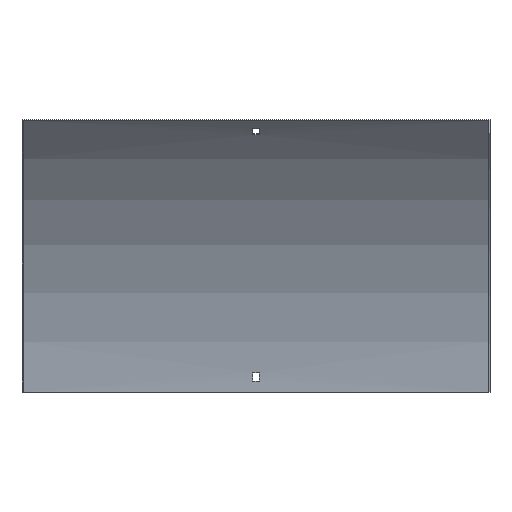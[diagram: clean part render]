
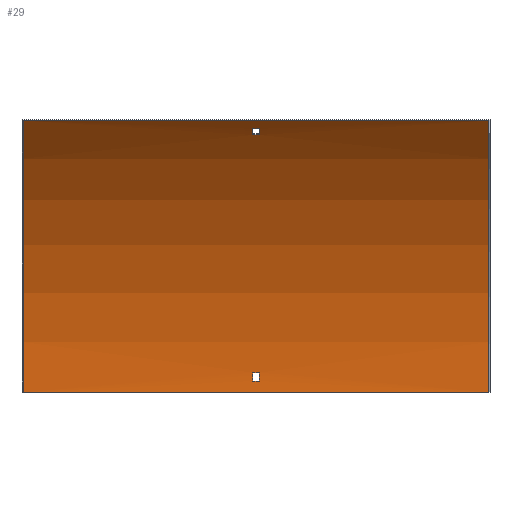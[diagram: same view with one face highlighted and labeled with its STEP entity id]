
A CAD part, front view. The second image highlights one B-rep face of the part: STEP entity #29.
In plain terms, the highlighted cylindrical face has radius 412.5 mm (diameter 825 mm), a partial arc.
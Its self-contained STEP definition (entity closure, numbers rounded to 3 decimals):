
#2 = EDGE_CURVE ( 'NONE', #605, #139, #540, .T. ) ;
#17 = AXIS2_PLACEMENT_3D ( 'NONE', #588, #550, #121 ) ;
#21 = ORIENTED_EDGE ( 'NONE', *, *, #517, .F. ) ;
#25 = ORIENTED_EDGE ( 'NONE', *, *, #397, .T. ) ;
#29 = ADVANCED_FACE ( 'NONE', ( #120, #464, #274 ), #419, .F. ) ;
#35 = CIRCLE ( 'NONE', #51, 412.5 ) ;
#38 = LINE ( 'NONE', #510, #302 ) ;
#46 = EDGE_CURVE ( 'NONE', #256, #534, #188, .T. ) ;
#51 = AXIS2_PLACEMENT_3D ( 'NONE', #288, #350, #483 ) ;
#58 = CARTESIAN_POINT ( 'NONE',  ( 250., -1.5, 0. ) ) ;
#61 = CARTESIAN_POINT ( 'NONE',  ( 3.25, -2.035, 21. ) ) ;
#63 = EDGE_LOOP ( 'NONE', ( #542, #260, #21, #101 ) ) ;
#64 = CARTESIAN_POINT ( 'NONE',  ( -3.25, -414., 0. ) ) ;
#67 = CARTESIAN_POINT ( 'NONE',  ( -3.25, -1.675, 12. ) ) ;
#79 = EDGE_CURVE ( 'NONE', #312, #339, #224, .T. ) ;
#81 = CARTESIAN_POINT ( 'NONE',  ( -250., -122.318, 291.682 ) ) ;
#83 = VECTOR ( 'NONE', #575, 1000. ) ;
#89 = CARTESIAN_POINT ( 'NONE',  ( 3.25, -1.675, 12. ) ) ;
#90 = CARTESIAN_POINT ( 'NONE',  ( -3.25, -113.957, 283.073 ) ) ;
#91 = ORIENTED_EDGE ( 'NONE', *, *, #531, .T. ) ;
#94 = ORIENTED_EDGE ( 'NONE', *, *, #46, .F. ) ;
#101 = ORIENTED_EDGE ( 'NONE', *, *, #377, .F. ) ;
#118 = ORIENTED_EDGE ( 'NONE', *, *, #270, .F. ) ;
#120 = FACE_BOUND ( 'NONE', #63, .T. ) ;
#121 = DIRECTION ( 'NONE',  ( 0., 0., -1. ) ) ;
#123 = CARTESIAN_POINT ( 'NONE',  ( 251.5, -2.035, 21. ) ) ;
#128 = CARTESIAN_POINT ( 'NONE',  ( 251.5, -414., 0. ) ) ;
#131 = DIRECTION ( 'NONE',  ( -1., 0., 0. ) ) ;
#138 = CIRCLE ( 'NONE', #504, 412.5 ) ;
#139 = VERTEX_POINT ( 'NONE', #385 ) ;
#151 = LINE ( 'NONE', #168, #190 ) ;
#160 = CARTESIAN_POINT ( 'NONE',  ( -3.25, -2.035, 21. ) ) ;
#163 = DIRECTION ( 'NONE',  ( 0., 0., -1. ) ) ;
#164 = ORIENTED_EDGE ( 'NONE', *, *, #599, .T. ) ;
#168 = CARTESIAN_POINT ( 'NONE',  ( 251.5, -113.957, 283.073 ) ) ;
#183 = DIRECTION ( 'NONE',  ( -1., 0., 0. ) ) ;
#184 = VERTEX_POINT ( 'NONE', #90 ) ;
#185 = VERTEX_POINT ( 'NONE', #518 ) ;
#188 = CIRCLE ( 'NONE', #573, 412.5 ) ;
#190 = VECTOR ( 'NONE', #227, 1000. ) ;
#205 = AXIS2_PLACEMENT_3D ( 'NONE', #64, #492, #163 ) ;
#208 = VERTEX_POINT ( 'NONE', #297 ) ;
#212 = EDGE_LOOP ( 'NONE', ( #94, #118, #164, #368 ) ) ;
#216 = CARTESIAN_POINT ( 'NONE',  ( 251.5, -1.675, 12. ) ) ;
#224 = LINE ( 'NONE', #123, #322 ) ;
#227 = DIRECTION ( 'NONE',  ( 1., 0., 0. ) ) ;
#229 = DIRECTION ( 'NONE',  ( 0., 0., -1. ) ) ;
#248 = DIRECTION ( 'NONE',  ( -1., 0., 0. ) ) ;
#256 = VERTEX_POINT ( 'NONE', #487 ) ;
#260 = ORIENTED_EDGE ( 'NONE', *, *, #79, .F. ) ;
#261 = CARTESIAN_POINT ( 'NONE',  ( 250., -1.5, 0. ) ) ;
#270 = EDGE_CURVE ( 'NONE', #433, #256, #307, .T. ) ;
#274 = FACE_BOUND ( 'NONE', #287, .T. ) ;
#284 = CIRCLE ( 'NONE', #489, 412.5 ) ;
#287 = EDGE_LOOP ( 'NONE', ( #347, #25, #559, #91 ) ) ;
#288 = CARTESIAN_POINT ( 'NONE',  ( 250., -414., 0. ) ) ;
#297 = CARTESIAN_POINT ( 'NONE',  ( 3.25, -113.957, 283.073 ) ) ;
#302 = VECTOR ( 'NONE', #462, 1000. ) ;
#304 = CARTESIAN_POINT ( 'NONE',  ( -3.25, -414., 0. ) ) ;
#307 = LINE ( 'NONE', #58, #83 ) ;
#308 = EDGE_CURVE ( 'NONE', #339, #374, #138, .T. ) ;
#312 = VERTEX_POINT ( 'NONE', #61 ) ;
#314 = LINE ( 'NONE', #216, #446 ) ;
#317 = EDGE_CURVE ( 'NONE', #184, #208, #151, .T. ) ;
#322 = VECTOR ( 'NONE', #327, 1000. ) ;
#327 = DIRECTION ( 'NONE',  ( -1., 0., 0. ) ) ;
#339 = VERTEX_POINT ( 'NONE', #160 ) ;
#347 = ORIENTED_EDGE ( 'NONE', *, *, #2, .T. ) ;
#350 = DIRECTION ( 'NONE',  ( 1., 0., 0. ) ) ;
#353 = DIRECTION ( 'NONE',  ( 1., 0., 0. ) ) ;
#361 = CARTESIAN_POINT ( 'NONE',  ( 3.25, -414., 0. ) ) ;
#368 = ORIENTED_EDGE ( 'NONE', *, *, #474, .T. ) ;
#374 = VERTEX_POINT ( 'NONE', #67 ) ;
#377 = EDGE_CURVE ( 'NONE', #374, #577, #314, .T. ) ;
#385 = CARTESIAN_POINT ( 'NONE',  ( -3.25, -107.847, 276.454 ) ) ;
#397 = EDGE_CURVE ( 'NONE', #139, #184, #477, .T. ) ;
#402 = DIRECTION ( 'NONE',  ( 0., 0., 1. ) ) ;
#419 = CYLINDRICAL_SURFACE ( 'NONE', #466, 412.5 ) ;
#433 = VERTEX_POINT ( 'NONE', #261 ) ;
#446 = VECTOR ( 'NONE', #353, 1000. ) ;
#452 = DIRECTION ( 'NONE',  ( 0., 0., 1. ) ) ;
#462 = DIRECTION ( 'NONE',  ( -1., 0., 0. ) ) ;
#464 = FACE_OUTER_BOUND ( 'NONE', #212, .T. ) ;
#466 = AXIS2_PLACEMENT_3D ( 'NONE', #128, #131, #402 ) ;
#474 = EDGE_CURVE ( 'NONE', #185, #534, #38, .T. ) ;
#477 = CIRCLE ( 'NONE', #205, 412.5 ) ;
#483 = DIRECTION ( 'NONE',  ( 0., 0., -1. ) ) ;
#487 = CARTESIAN_POINT ( 'NONE',  ( -250., -1.5, 0. ) ) ;
#489 = AXIS2_PLACEMENT_3D ( 'NONE', #361, #183, #452 ) ;
#492 = DIRECTION ( 'NONE',  ( 1., 0., 0. ) ) ;
#493 = DIRECTION ( 'NONE',  ( 0., 0., 1. ) ) ;
#504 = AXIS2_PLACEMENT_3D ( 'NONE', #304, #248, #493 ) ;
#506 = DIRECTION ( 'NONE',  ( -1., 0., 0. ) ) ;
#510 = CARTESIAN_POINT ( 'NONE',  ( 250., -122.318, 291.682 ) ) ;
#517 = EDGE_CURVE ( 'NONE', #577, #312, #606, .T. ) ;
#518 = CARTESIAN_POINT ( 'NONE',  ( 250., -122.318, 291.682 ) ) ;
#531 = EDGE_CURVE ( 'NONE', #208, #605, #284, .T. ) ;
#534 = VERTEX_POINT ( 'NONE', #81 ) ;
#540 = LINE ( 'NONE', #554, #604 ) ;
#542 = ORIENTED_EDGE ( 'NONE', *, *, #308, .F. ) ;
#550 = DIRECTION ( 'NONE',  ( 1., 0., 0. ) ) ;
#554 = CARTESIAN_POINT ( 'NONE',  ( 251.5, -107.847, 276.454 ) ) ;
#559 = ORIENTED_EDGE ( 'NONE', *, *, #317, .T. ) ;
#561 = CARTESIAN_POINT ( 'NONE',  ( 3.25, -107.847, 276.454 ) ) ;
#573 = AXIS2_PLACEMENT_3D ( 'NONE', #584, #591, #229 ) ;
#575 = DIRECTION ( 'NONE',  ( -1., 0., 0. ) ) ;
#577 = VERTEX_POINT ( 'NONE', #89 ) ;
#584 = CARTESIAN_POINT ( 'NONE',  ( -250., -414., 0. ) ) ;
#588 = CARTESIAN_POINT ( 'NONE',  ( 3.25, -414., 0. ) ) ;
#591 = DIRECTION ( 'NONE',  ( 1., 0., 0. ) ) ;
#599 = EDGE_CURVE ( 'NONE', #433, #185, #35, .T. ) ;
#604 = VECTOR ( 'NONE', #506, 1000. ) ;
#605 = VERTEX_POINT ( 'NONE', #561 ) ;
#606 = CIRCLE ( 'NONE', #17, 412.5 ) ;
